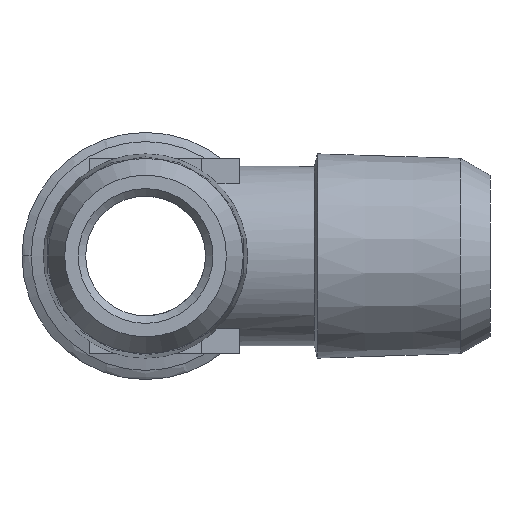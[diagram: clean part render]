
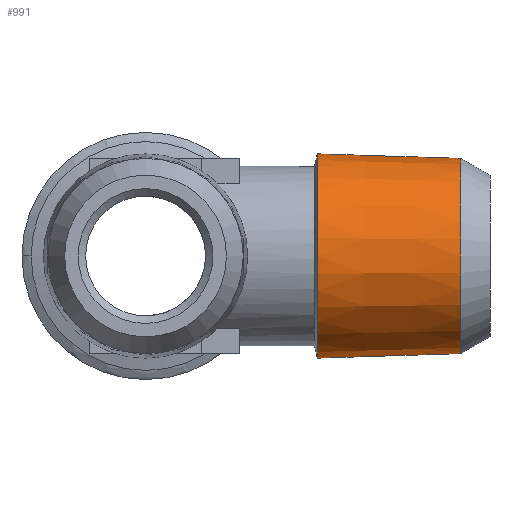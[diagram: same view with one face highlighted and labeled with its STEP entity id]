
A CAD part, left-side view. The second image highlights one B-rep face of the part: STEP entity #991.
In plain terms, the highlighted conical face has half-angle 1.79 degrees and reference radius 6.52 mm.
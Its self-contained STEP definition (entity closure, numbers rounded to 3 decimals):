
#28 = CARTESIAN_POINT ( 'NONE',  ( 0., 4.44, 6.52 ) ) ;
#47 = CARTESIAN_POINT ( 'NONE',  ( 0., 14.017, 6.819 ) ) ;
#101 = DIRECTION ( 'NONE',  ( 0., 0., 1. ) ) ;
#102 = DIRECTION ( 'NONE',  ( 0., 1., 0. ) ) ;
#103 = CARTESIAN_POINT ( 'NONE',  ( 0., 4.44, 0. ) ) ;
#234 = EDGE_LOOP ( 'NONE', ( #807 ) ) ;
#374 = CONICAL_SURFACE ( 'NONE', #1074, 6.52, 0.031 ) ;
#384 = FACE_OUTER_BOUND ( 'NONE', #234, .T. ) ;
#393 = FACE_BOUND ( 'NONE', #916, .T. ) ;
#405 = CIRCLE ( 'NONE', #1147, 6.52 ) ;
#462 = CARTESIAN_POINT ( 'NONE',  ( 0., 14.017, 0. ) ) ;
#463 = DIRECTION ( 'NONE',  ( 0., 1., 0. ) ) ;
#464 = DIRECTION ( 'NONE',  ( 0., 0., 1. ) ) ;
#621 = DIRECTION ( 'NONE',  ( 0., 0., 1. ) ) ;
#622 = CARTESIAN_POINT ( 'NONE',  ( 0., 4.44, 0. ) ) ;
#623 = DIRECTION ( 'NONE',  ( 0., 1., 0. ) ) ;
#717 = CIRCLE ( 'NONE', #1045, 6.819 ) ;
#764 = EDGE_CURVE ( 'NONE', #1099, #1099, #717, .T. ) ;
#807 = ORIENTED_EDGE ( 'NONE', *, *, #764, .F. ) ;
#809 = ORIENTED_EDGE ( 'NONE', *, *, #1036, .T. ) ;
#916 = EDGE_LOOP ( 'NONE', ( #809 ) ) ;
#991 = ADVANCED_FACE ( 'NONE', ( #384, #393 ), #374, .T. ) ;
#1036 = EDGE_CURVE ( 'NONE', #1086, #1086, #405, .T. ) ;
#1045 = AXIS2_PLACEMENT_3D ( 'NONE', #462, #463, #464 ) ;
#1074 = AXIS2_PLACEMENT_3D ( 'NONE', #622, #623, #621 ) ;
#1086 = VERTEX_POINT ( 'NONE', #28 ) ;
#1099 = VERTEX_POINT ( 'NONE', #47 ) ;
#1147 = AXIS2_PLACEMENT_3D ( 'NONE', #103, #102, #101 ) ;
